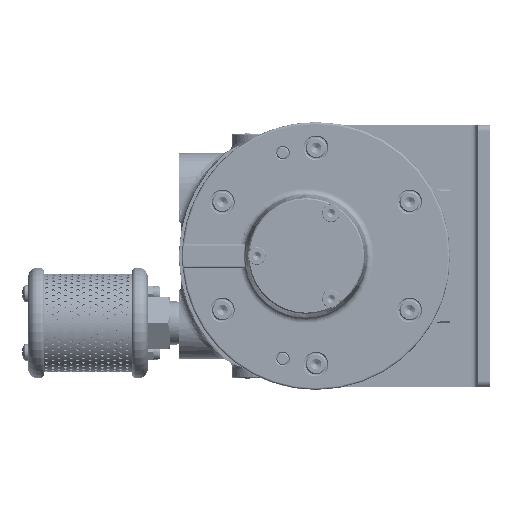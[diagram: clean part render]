
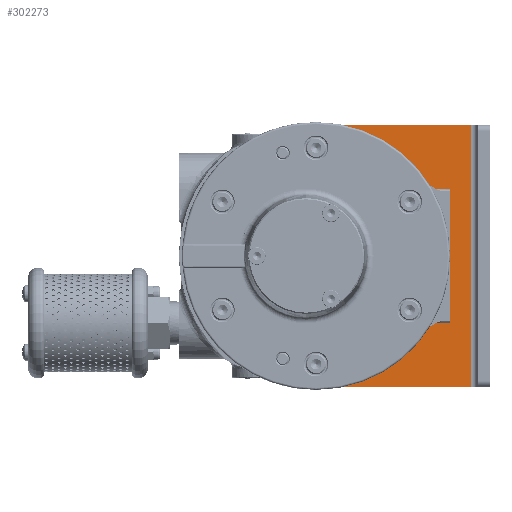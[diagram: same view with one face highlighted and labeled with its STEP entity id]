
A CAD part, left-side view. The second image highlights one B-rep face of the part: STEP entity #302273.
In plain terms, the highlighted planar face has unit normal (-1, 0, 0).
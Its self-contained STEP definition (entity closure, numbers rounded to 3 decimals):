
#2127 = ORIENTED_EDGE ( 'NONE', *, *, #290471, .T. ) ;
#3038 = CARTESIAN_POINT ( 'NONE',  ( 61.98, -20.65, 39.694 ) ) ;
#5233 = DIRECTION ( 'NONE',  ( -1., 0., 0. ) ) ;
#5639 = LINE ( 'NONE', #188055, #73147 ) ;
#6180 = DIRECTION ( 'NONE',  ( -1., 0., 0. ) ) ;
#12733 = CARTESIAN_POINT ( 'NONE',  ( 61.98, -84.45, -63.65 ) ) ;
#14103 = CIRCLE ( 'NONE', #200537, 4.3 ) ;
#16004 = CARTESIAN_POINT ( 'NONE',  ( 61.98, -36.236, 3.378 ) ) ;
#19069 = ORIENTED_EDGE ( 'NONE', *, *, #273703, .T. ) ;
#21148 = CARTESIAN_POINT ( 'NONE',  ( 61.98, -20.65, -48.294 ) ) ;
#35344 = CARTESIAN_POINT ( 'NONE',  ( 61.98, -5.738, -36.66 ) ) ;
#37880 = LINE ( 'NONE', #12733, #78991 ) ;
#37969 = ORIENTED_EDGE ( 'NONE', *, *, #65268, .T. ) ;
#38478 = DIRECTION ( 'NONE',  ( 0., -0.676, -0.737 ) ) ;
#39623 = DIRECTION ( 'NONE',  ( 0., 0., -1. ) ) ;
#40407 = AXIS2_PLACEMENT_3D ( 'NONE', #246872, #175996, #56678 ) ;
#44643 = DIRECTION ( 'NONE',  ( 0., 1., 0. ) ) ;
#45334 = VERTEX_POINT ( 'NONE', #153623 ) ;
#45722 = CIRCLE ( 'NONE', #152823, 3. ) ;
#46341 = VERTEX_POINT ( 'NONE', #81650 ) ;
#48027 = PLANE ( 'NONE',  #124044 ) ;
#48160 = ORIENTED_EDGE ( 'NONE', *, *, #159880, .F. ) ;
#50376 = EDGE_CURVE ( 'NONE', #131563, #73414, #296944, .T. ) ;
#53295 = DIRECTION ( 'NONE',  ( 0., 0., 1. ) ) ;
#54997 = DIRECTION ( 'NONE',  ( 0., 0., 1. ) ) ;
#55874 = EDGE_CURVE ( 'NONE', #212743, #131563, #45722, .T. ) ;
#56049 = ORIENTED_EDGE ( 'NONE', *, *, #247557, .F. ) ;
#56678 = DIRECTION ( 'NONE',  ( 0., 0., -1. ) ) ;
#64717 = DIRECTION ( 'NONE',  ( -1., 0., 0. ) ) ;
#64828 = CARTESIAN_POINT ( 'NONE',  ( 61.98, -4.95, -95.837 ) ) ;
#65268 = EDGE_CURVE ( 'NONE', #73414, #235977, #271168, .T. ) ;
#66133 = CIRCLE ( 'NONE', #77482, 4.3 ) ;
#67720 = VECTOR ( 'NONE', #91861, 1000. ) ;
#68062 = CARTESIAN_POINT ( 'NONE',  ( 61.98, -4.95, 60.65 ) ) ;
#69719 = CARTESIAN_POINT ( 'NONE',  ( 61.98, -84.45, 63.65 ) ) ;
#69937 = ORIENTED_EDGE ( 'NONE', *, *, #141310, .F. ) ;
#72078 = VERTEX_POINT ( 'NONE', #257434 ) ;
#72293 = CARTESIAN_POINT ( 'NONE',  ( 61.98, -32.549, 0. ) ) ;
#73147 = VECTOR ( 'NONE', #256915, 1000. ) ;
#73414 = VERTEX_POINT ( 'NONE', #16004 ) ;
#73440 = AXIS2_PLACEMENT_3D ( 'NONE', #229184, #230231, #275183 ) ;
#77482 = AXIS2_PLACEMENT_3D ( 'NONE', #200397, #246216, #54997 ) ;
#78991 = VECTOR ( 'NONE', #132970, 1000. ) ;
#81511 = VECTOR ( 'NONE', #180033, 1000. ) ;
#81650 = CARTESIAN_POINT ( 'NONE',  ( 61.98, -4.95, -38.687 ) ) ;
#84080 = VERTEX_POINT ( 'NONE', #271364 ) ;
#86591 = EDGE_CURVE ( 'NONE', #225459, #46341, #109899, .T. ) ;
#88814 = CIRCLE ( 'NONE', #189154, 4.3 ) ;
#90816 = VERTEX_POINT ( 'NONE', #68062 ) ;
#91430 = VERTEX_POINT ( 'NONE', #267141 ) ;
#91861 = DIRECTION ( 'NONE',  ( 0., 0., 1. ) ) ;
#97149 = DIRECTION ( 'NONE',  ( 1., 0., 0. ) ) ;
#99523 = CIRCLE ( 'NONE', #73440, 3. ) ;
#101391 = CARTESIAN_POINT ( 'NONE',  ( 61.98, -20.65, 43.994 ) ) ;
#105742 = EDGE_CURVE ( 'NONE', #45334, #168303, #147913, .T. ) ;
#106396 = EDGE_LOOP ( 'NONE', ( #307174, #48160 ) ) ;
#108427 = DIRECTION ( 'NONE',  ( 0., 0., -1. ) ) ;
#109519 = DIRECTION ( 'NONE',  ( -1., 0., 0. ) ) ;
#109899 = CIRCLE ( 'NONE', #40407, 3. ) ;
#111468 = CARTESIAN_POINT ( 'NONE',  ( 61.98, -20.65, -39.694 ) ) ;
#113009 = EDGE_CURVE ( 'NONE', #91430, #256568, #88814, .T. ) ;
#113621 = VECTOR ( 'NONE', #38478, 1000. ) ;
#114375 = ORIENTED_EDGE ( 'NONE', *, *, #179471, .F. ) ;
#115293 = AXIS2_PLACEMENT_3D ( 'NONE', #183045, #64717, #39623 ) ;
#120134 = ORIENTED_EDGE ( 'NONE', *, *, #156846, .F. ) ;
#120181 = DIRECTION ( 'NONE',  ( 0., 0., -1. ) ) ;
#124044 = AXIS2_PLACEMENT_3D ( 'NONE', #262232, #97149, #120181 ) ;
#131563 = VERTEX_POINT ( 'NONE', #295162 ) ;
#132970 = DIRECTION ( 'NONE',  ( 0., 1., 0. ) ) ;
#134268 = LINE ( 'NONE', #196664, #216740 ) ;
#137347 = CIRCLE ( 'NONE', #198465, 4.3 ) ;
#140525 = ORIENTED_EDGE ( 'NONE', *, *, #145791, .T. ) ;
#141310 = EDGE_CURVE ( 'NONE', #174975, #144340, #66133, .T. ) ;
#144340 = VERTEX_POINT ( 'NONE', #111468 ) ;
#145791 = EDGE_CURVE ( 'NONE', #168303, #90816, #99523, .T. ) ;
#146745 = CARTESIAN_POINT ( 'NONE',  ( 61.98, -36.236, -3.378 ) ) ;
#147913 = LINE ( 'NONE', #69719, #166621 ) ;
#152823 = AXIS2_PLACEMENT_3D ( 'NONE', #224484, #248459, #108427 ) ;
#153623 = CARTESIAN_POINT ( 'NONE',  ( 61.98, -75.45, 63.65 ) ) ;
#156846 = EDGE_CURVE ( 'NONE', #72078, #209063, #37880, .T. ) ;
#159880 = EDGE_CURVE ( 'NONE', #256568, #91430, #14103, .T. ) ;
#163440 = EDGE_CURVE ( 'NONE', #235977, #225459, #5639, .T. ) ;
#166621 = VECTOR ( 'NONE', #44643, 1000. ) ;
#168303 = VERTEX_POINT ( 'NONE', #229731 ) ;
#170575 = CARTESIAN_POINT ( 'NONE',  ( 61.98, -20.65, -43.994 ) ) ;
#173619 = DIRECTION ( 'NONE',  ( 0., 0., 1. ) ) ;
#174975 = VERTEX_POINT ( 'NONE', #21148 ) ;
#175925 = ORIENTED_EDGE ( 'NONE', *, *, #50376, .T. ) ;
#175996 = DIRECTION ( 'NONE',  ( -1., 0., 0. ) ) ;
#177643 = FACE_OUTER_BOUND ( 'NONE', #243097, .T. ) ;
#179471 = EDGE_CURVE ( 'NONE', #84080, #46341, #216226, .T. ) ;
#180033 = DIRECTION ( 'NONE',  ( 0., 0., 1. ) ) ;
#183045 = CARTESIAN_POINT ( 'NONE',  ( 61.98, -7.95, -60.65 ) ) ;
#186221 = ORIENTED_EDGE ( 'NONE', *, *, #163440, .T. ) ;
#188055 = CARTESIAN_POINT ( 'NONE',  ( 61.98, -28.22, -12.125 ) ) ;
#189154 = AXIS2_PLACEMENT_3D ( 'NONE', #299800, #109519, #255719 ) ;
#190465 = AXIS2_PLACEMENT_3D ( 'NONE', #72293, #308653, #287672 ) ;
#194218 = ORIENTED_EDGE ( 'NONE', *, *, #105742, .T. ) ;
#196664 = CARTESIAN_POINT ( 'NONE',  ( 61.98, -4.95, -95.837 ) ) ;
#198465 = AXIS2_PLACEMENT_3D ( 'NONE', #170575, #5233, #218538 ) ;
#200397 = CARTESIAN_POINT ( 'NONE',  ( 61.98, -20.65, -43.994 ) ) ;
#200537 = AXIS2_PLACEMENT_3D ( 'NONE', #101391, #6180, #173619 ) ;
#209063 = VERTEX_POINT ( 'NONE', #297683 ) ;
#212743 = VERTEX_POINT ( 'NONE', #267736 ) ;
#214374 = ORIENTED_EDGE ( 'NONE', *, *, #86591, .T. ) ;
#216226 = LINE ( 'NONE', #64828, #81511 ) ;
#216740 = VECTOR ( 'NONE', #53295, 1000. ) ;
#218538 = DIRECTION ( 'NONE',  ( 0., 0., 1. ) ) ;
#222488 = FACE_BOUND ( 'NONE', #236074, .T. ) ;
#224484 = CARTESIAN_POINT ( 'NONE',  ( 61.98, -7.95, 38.687 ) ) ;
#225459 = VERTEX_POINT ( 'NONE', #35344 ) ;
#229184 = CARTESIAN_POINT ( 'NONE',  ( 61.98, -7.95, 60.65 ) ) ;
#229731 = CARTESIAN_POINT ( 'NONE',  ( 61.98, -7.95, 63.65 ) ) ;
#230231 = DIRECTION ( 'NONE',  ( -1., 0., 0. ) ) ;
#232911 = CARTESIAN_POINT ( 'NONE',  ( 61.98, -91.628, -57.072 ) ) ;
#235977 = VERTEX_POINT ( 'NONE', #146745 ) ;
#236074 = EDGE_LOOP ( 'NONE', ( #240660, #69937 ) ) ;
#240660 = ORIENTED_EDGE ( 'NONE', *, *, #253957, .F. ) ;
#243097 = EDGE_LOOP ( 'NONE', ( #194218, #140525, #56049, #291335, #175925, #37969, #186221, #214374, #114375, #19069, #120134, #2127 ) ) ;
#246216 = DIRECTION ( 'NONE',  ( -1., 0., 0. ) ) ;
#246872 = CARTESIAN_POINT ( 'NONE',  ( 61.98, -7.95, -38.687 ) ) ;
#247557 = EDGE_CURVE ( 'NONE', #212743, #90816, #134268, .T. ) ;
#248459 = DIRECTION ( 'NONE',  ( -1., 0., 0. ) ) ;
#253957 = EDGE_CURVE ( 'NONE', #144340, #174975, #137347, .T. ) ;
#254560 = LINE ( 'NONE', #307166, #67720 ) ;
#255719 = DIRECTION ( 'NONE',  ( 0., 0., 1. ) ) ;
#256568 = VERTEX_POINT ( 'NONE', #3038 ) ;
#256915 = DIRECTION ( 'NONE',  ( 0., 0.676, -0.737 ) ) ;
#257434 = CARTESIAN_POINT ( 'NONE',  ( 61.98, -75.45, -63.65 ) ) ;
#260793 = CIRCLE ( 'NONE', #115293, 3. ) ;
#262232 = CARTESIAN_POINT ( 'NONE',  ( 61.98, -84.45, -63.65 ) ) ;
#267141 = CARTESIAN_POINT ( 'NONE',  ( 61.98, -20.65, 48.294 ) ) ;
#267736 = CARTESIAN_POINT ( 'NONE',  ( 61.98, -4.95, 38.687 ) ) ;
#271168 = CIRCLE ( 'NONE', #190465, 5. ) ;
#271364 = CARTESIAN_POINT ( 'NONE',  ( 61.98, -4.95, -60.65 ) ) ;
#273703 = EDGE_CURVE ( 'NONE', #84080, #209063, #260793, .T. ) ;
#275183 = DIRECTION ( 'NONE',  ( 0., 0., -1. ) ) ;
#286091 = FACE_BOUND ( 'NONE', #106396, .T. ) ;
#287672 = DIRECTION ( 'NONE',  ( 0., 0., -1. ) ) ;
#290471 = EDGE_CURVE ( 'NONE', #72078, #45334, #254560, .T. ) ;
#291335 = ORIENTED_EDGE ( 'NONE', *, *, #55874, .T. ) ;
#295162 = CARTESIAN_POINT ( 'NONE',  ( 61.98, -5.738, 36.66 ) ) ;
#296944 = LINE ( 'NONE', #232911, #113621 ) ;
#297683 = CARTESIAN_POINT ( 'NONE',  ( 61.98, -7.95, -63.65 ) ) ;
#299800 = CARTESIAN_POINT ( 'NONE',  ( 61.98, -20.65, 43.994 ) ) ;
#302273 = ADVANCED_FACE ( 'NONE', ( #286091, #222488, #177643 ), #48027, .F. ) ;
#307166 = CARTESIAN_POINT ( 'NONE',  ( 61.98, -75.45, -63.65 ) ) ;
#307174 = ORIENTED_EDGE ( 'NONE', *, *, #113009, .F. ) ;
#308653 = DIRECTION ( 'NONE',  ( 1., 0., 0. ) ) ;
